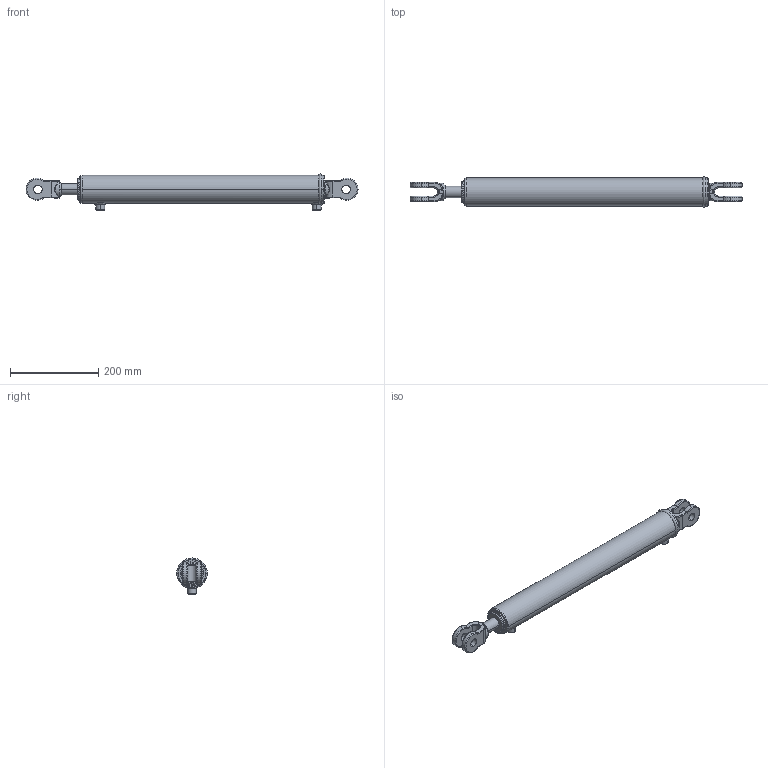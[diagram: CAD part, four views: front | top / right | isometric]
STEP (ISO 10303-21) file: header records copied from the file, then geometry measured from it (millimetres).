
FILE_DESCRIPTION (( 'STEP AP203' ), '1' );
FILE_NAME ('CL-CL200100x457 (18).STEP', '2014-11-20T22:03:18', ( '' ), ( '' ), 'SwSTEP 2.0', 'SolidWorks 2014', '' );
FILE_SCHEMA (( 'CONFIG_CONTROL_DESIGN' ));
Length unit declared in the file: millimetre
Products named in the file (5): CL-CL150075x457 (18) BODY; 2 inch ext circlip; CL-CL200100x457 (18) BODY; 18 SPARE; CL-CL200100x457 (18)
Assembly tree (4 placements, depth 3):
  CL-CL200100x457 (18)
    CL-CL200100x457 (18) BODY
      CL-CL150075x457 (18) BODY
      2 inch ext circlip
    18 SPARE
Bounding box: 751.41 x 69.5 x 81.5 mm (x, y, z)
Volume: 2124369.1 mm3; surface area: 212790.7 mm2
Topology: 3 solids, 3 shells, 284 faces, 701 edges, 419 vertices
Faces by surface type: bspline 117, cylinder 108, plane 37, torus 14, cone 8
Entity records: 24865 total; most frequent: CARTESIAN_POINT 18431, ORIENTED_EDGE 1370, DIRECTION 1046, EDGE_CURVE 685, AXIS2_PLACEMENT_3D 435, VERTEX_POINT 419, EDGE_LOOP 308, ADVANCED_FACE 284
